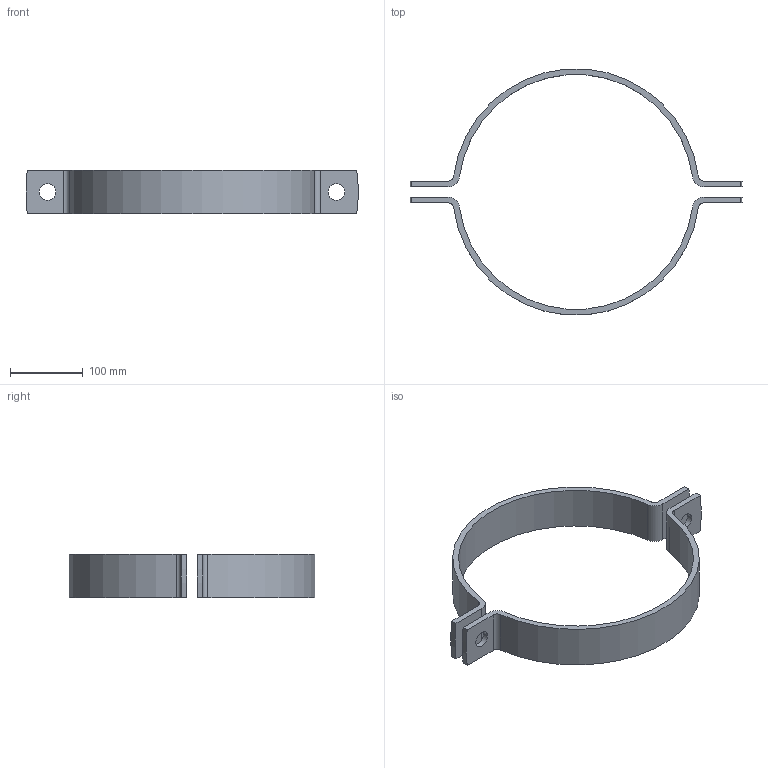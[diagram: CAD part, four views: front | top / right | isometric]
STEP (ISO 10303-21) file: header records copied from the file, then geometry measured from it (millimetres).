
FILE_DESCRIPTION (( 'STEP AP203' ), '1' );
FILE_NAME ('NW300-323,9 (DIN 3567).STEP', '2023-12-08T11:36:15', ( '' ), ( '' ), 'SwSTEP 2.0', 'SolidWorks 2023', '' );
FILE_SCHEMA (( 'CONFIG_CONTROL_DESIGN' ));
Length unit declared in the file: millimetre
Products named in the file (1): NW300-323,9 (DIN 3567)
Bounding box: 457.56 x 338.68 x 60 mm (x, y, z)
Volume: 578726.4 mm3; surface area: 168569.1 mm2
Topology: 2 solids, 2 shells, 36 faces, 96 edges, 64 vertices
Faces by surface type: cylinder 24, plane 12
Entity records: 1239 total; most frequent: DIRECTION 218, CARTESIAN_POINT 197, ORIENTED_EDGE 192, EDGE_CURVE 96, AXIS2_PLACEMENT_3D 85, VERTEX_POINT 64, VECTOR 48, LINE 48
